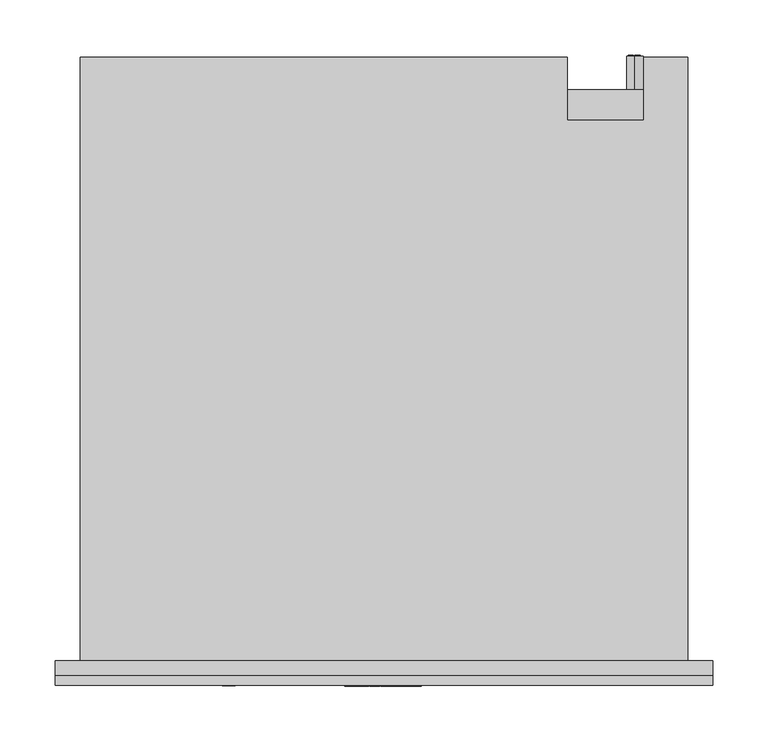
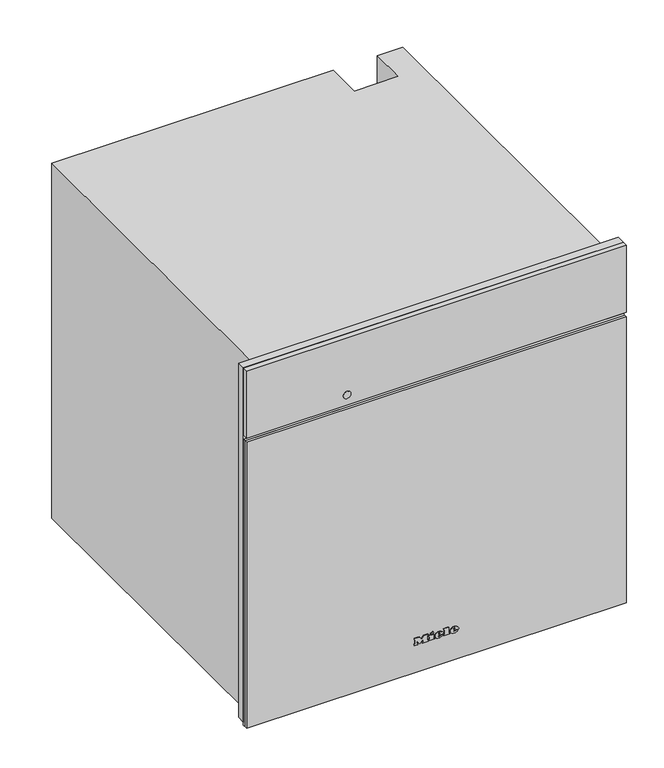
"""IFC4 building model written with IfcOpenShell, lengths in millimetres: proxy geometry, 12327520_UA_DGC7860HCXPro_OBSWM : 23786089_UA_12327520_DGC7860HCXPro_OBSWM."""

from ifc_helpers import new_model, si_unit, point, frame, frame_2d, origin, place, context, project, spatial, polyline, circle_curve, ellipse_curve, trimmed, segment, composite_curve, outline, extrude, faceted_brep, source, transform, mapped, element, save
from ifc_brep_helpers import plane_surface, cylinder_surface, revolved_surface, extruded_surface, advanced_brep


def specialty_equipment_33fbdf8a(model_context):
    return source(origin(), model_context, "Body", "SolidModel", [
        extrude(outline(polyline([(596.0, 297.5), (596.0, -297.5), (9.0, -297.5), (9.0, 297.5), (596.0, 297.5)]), holes=[polyline([(485.0, -272.5), (485.0, 272.5), (27.0, 272.5), (27.0, -272.5), (485.0, -272.5)])]), frame((0.0, -13.0, 0.0), z_axis=(0.0, 1.0, 0.0), x_axis=(0.0, 0.0, 1.0)), (0.0, 0.0, 1.0), 13.0),
        advanced_brep(
        [(227.0, 547.0, 396.5), (227.0, 547.0, 381.5), (221.4098301, 547.0, 384.0), (225.5, 547.0, 384.0), (225.5, 547.0, 394.0), (224.4955303, 547.0, 394.0), (224.4955303, 547.0, 385.0), (221.0315043, 547.0, 385.0), (221.0315043, 547.0, 384.4582978), (232.0, 547.0, 384.0), (232.0, 547.0, 394.0), (227.0, 547.0, 394.0), (227.0, 547.0, 393.0), (231.0, 547.0, 393.0), (231.0, 547.0, 389.5), (228.0, 547.0, 389.5), (228.0, 547.0, 388.5), (231.0, 547.0, 388.5), (231.0, 547.0, 385.0), (227.0, 547.0, 385.0), (227.0, 547.0, 384.0), (227.0, 517.0, 381.5), (227.0, 517.0, 396.5), (232.0, 548.0, 394.0), (232.0, 548.0, 384.0), (227.0, 548.0, 384.0), (227.0, 548.0, 385.0), (231.0, 548.0, 385.0), (231.0, 548.0, 388.5), (228.0, 548.0, 388.5), (228.0, 548.0, 389.5), (231.0, 548.0, 389.5), (231.0, 548.0, 393.0), (227.0, 548.0, 393.0), (227.0, 548.0, 394.0), (225.5, 548.0, 384.0), (221.0315043, 548.0, 384.0), (221.0315043, 548.0, 385.0), (224.4955303, 548.0, 385.0), (224.4955303, 548.0, 394.0), (225.5, 548.0, 394.0), (221.0315043, 547.0, 384.0)],
        [
            (0, 1, circle_curve(frame((227.0, 547.0, 389.0), z_axis=(0.0, 1.0, 0.0), x_axis=(0.0, 0.0, 1.0)), 7.5)),
            (1, 2, circle_curve(frame((227.0, 547.0, 389.0), z_axis=(0.0, 1.0, 0.0), x_axis=(0.0, 0.0, 1.0)), 7.5)),
            (2, 3),
            (3, 4),
            (4, 5),
            (5, 6),
            (6, 7),
            (7, 8),
            (8, 0, circle_curve(frame((227.0, 547.0, 389.0), z_axis=(0.0, 1.0, 0.0), x_axis=(0.0, 0.0, 1.0)), 7.5)),
            (9, 10),
            (10, 11),
            (11, 12),
            (12, 13),
            (13, 14),
            (14, 15),
            (15, 16),
            (16, 17),
            (17, 18),
            (18, 19),
            (19, 20),
            (20, 9),
            (21, 22, circle_curve(frame((227.0, 517.0, 389.0), z_axis=(0.0, -1.0, 0.0), x_axis=(0.0, 0.0, 1.0)), 7.5)),
            (22, 21, circle_curve(frame((227.0, 517.0, 389.0), z_axis=(0.0, -1.0, 0.0), x_axis=(0.0, 0.0, 1.0)), 7.5)),
            (0, 22),
            (21, 1),
            (8, 2, circle_curve(frame((227.0, 547.0, 389.0), z_axis=(0.0, -1.0, 0.0), x_axis=(0.0, 0.0, 1.0)), 7.5)),
            (23, 24),
            (24, 25),
            (25, 26),
            (26, 27),
            (27, 28),
            (28, 29),
            (29, 30),
            (30, 31),
            (31, 32),
            (32, 33),
            (33, 34),
            (34, 23),
            (35, 36),
            (36, 37),
            (37, 38),
            (38, 39),
            (39, 40),
            (40, 35),
            (8, 41),
            (41, 2),
            (23, 10),
            (9, 24),
            (20, 25),
            (19, 26),
            (18, 27),
            (17, 28),
            (16, 29),
            (15, 30),
            (14, 31),
            (13, 32),
            (12, 33),
            (11, 34),
            (35, 3),
            (41, 36),
            (7, 37),
            (6, 38),
            (5, 39),
            (4, 40),
        ],
        [
            plane_surface(frame((227.0, 547.0, 396.5), z_axis=(0.0, 1.0, 0.0), x_axis=(1.0, 0.0, 0.0))),
            plane_surface(frame((227.0, 517.0, 396.5), z_axis=(0.0, -1.0, 0.0), x_axis=(-1.0, 0.0, 0.0))),
            cylinder_surface(frame((227.0, 547.0, 389.0), z_axis=(0.0, -1.0, 0.0), x_axis=(0.0, 0.0, 1.0)), 7.5),
            plane_surface(frame((232.0, 548.0, 394.0), z_axis=(0.0, 1.0, 0.0), x_axis=(0.0, 0.0, -1.0))),
            plane_surface(frame((232.0, 547.0, 394.0), z_axis=(0.0, -1.0, 0.0), x_axis=(0.0, 0.0, 1.0))),
            plane_surface(frame((232.0, 548.0, 394.0), z_axis=(1.0, 0.0, 0.0), x_axis=(0.0, -1.0, 0.0))),
            plane_surface(frame((232.0, 548.0, 384.0), z_axis=(0.0, 0.0, -1.0), x_axis=(0.0, -1.0, 0.0))),
            plane_surface(frame((227.0, 548.0, 384.0), z_axis=(-1.0, 0.0, 0.0), x_axis=(0.0, -1.0, 0.0))),
            plane_surface(frame((227.0, 548.0, 385.0), z_axis=(0.0, 0.0, 1.0), x_axis=(0.0, -1.0, 0.0))),
            plane_surface(frame((231.0, 548.0, 385.0), z_axis=(-1.0, 0.0, 0.0), x_axis=(0.0, -1.0, 0.0))),
            plane_surface(frame((231.0, 548.0, 388.5), z_axis=(0.0, 0.0, -1.0), x_axis=(0.0, -1.0, 0.0))),
            plane_surface(frame((228.0, 548.0, 388.5), z_axis=(-1.0, 0.0, 0.0), x_axis=(0.0, -1.0, 0.0))),
            plane_surface(frame((228.0, 548.0, 389.5), z_axis=(0.0, 0.0, 1.0), x_axis=(0.0, -1.0, 0.0))),
            plane_surface(frame((231.0, 548.0, 389.5), z_axis=(-1.0, 0.0, 0.0), x_axis=(0.0, -1.0, 0.0))),
            plane_surface(frame((231.0, 548.0, 393.0), z_axis=(0.0, 0.0, -1.0), x_axis=(0.0, -1.0, 0.0))),
            plane_surface(frame((227.0, 548.0, 393.0), z_axis=(-1.0, 0.0, 0.0), x_axis=(0.0, -1.0, 0.0))),
            plane_surface(frame((227.0, 548.0, 394.0), z_axis=(0.0, 0.0, 1.0), x_axis=(0.0, -1.0, 0.0))),
            plane_surface(frame((225.5, 548.0, 384.0), z_axis=(0.0, 0.0, -1.0), x_axis=(0.0, -1.0, 0.0))),
            plane_surface(frame((221.0315043, 548.0, 384.0), z_axis=(-1.0, 0.0, 0.0), x_axis=(0.0, -1.0, 0.0))),
            plane_surface(frame((221.0315043, 548.0, 385.0), z_axis=(0.0, 0.0, 1.0), x_axis=(0.0, -1.0, 0.0))),
            plane_surface(frame((224.4955303, 548.0, 385.0), z_axis=(-1.0, 0.0, 0.0), x_axis=(0.0, -1.0, 0.0))),
            plane_surface(frame((224.4955303, 548.0, 394.0), z_axis=(0.0, 0.0, 1.0), x_axis=(0.0, -1.0, 0.0))),
            plane_surface(frame((225.5, 548.0, 394.0), z_axis=(1.0, 0.0, 0.0), x_axis=(0.0, -1.0, 0.0))),
        ],
        [
            (0, [[1, 2, 3, 4, 5, 6, 7, 8, 9], [10, 11, 12, 13, 14, 15, 16, 17, 18, 19, 20, 21]]),
            (1, [[22, 23]]),
            (2, [[-1, 24, -22, 25]]),
            (2, [[-23, -24, -9, 26, -2, -25]]),
            (3, [[27, 28, 29, 30, 31, 32, 33, 34, 35, 36, 37, 38]]),
            (3, [[39, 40, 41, 42, 43, 44]]),
            (4, [[45, 46, -26]]),
            (5, [[-27, 47, -10, 48]]),
            (6, [[-28, -48, -21, 49]]),
            (7, [[-29, -49, -20, 50]]),
            (8, [[-30, -50, -19, 51]]),
            (9, [[-31, -51, -18, 52]]),
            (10, [[-32, -52, -17, 53]]),
            (11, [[-33, -53, -16, 54]]),
            (12, [[-34, -54, -15, 55]]),
            (13, [[-35, -55, -14, 56]]),
            (14, [[-36, -56, -13, 57]]),
            (15, [[-37, -57, -12, 58]]),
            (16, [[-38, -58, -11, -47]]),
            (17, [[-39, 59, -3, -46, 60]]),
            (18, [[-40, -60, -45, -8, 61]]),
            (19, [[-41, -61, -7, 62]]),
            (20, [[-42, -62, -6, 63]]),
            (21, [[-43, -63, -5, 64]]),
            (22, [[-44, -64, -4, -59]]),
        ],
    ),
        faceted_brep([(-275.0, 546.0, 0.0), (-275.0, 546.0, 588.0), (166.0, 546.0, 588.0), (166.0, 546.0, 0.0), (235.0, 546.0, 588.0), (275.0, 546.0, 588.0), (275.0, 546.0, 478.0), (235.0, 546.0, 478.0), (275.0, 0.0, 588.0), (-275.0, 0.0, 588.0), (-275.0, 0.0, 0.0), (275.0, 0.0, 0.0), (-272.5, 0.0, 485.0), (272.5, 0.0, 485.0), (272.5, 0.0, 27.0), (-272.5, 0.0, 27.0), (235.0, 489.0, 588.0), (166.0, 489.0, 588.0), (166.0, 517.0, 0.0), (275.0, 517.0, 0.0), (275.0, 517.0, 478.0), (272.5, 17.0, 485.0), (-272.5, 17.0, 485.0), (-272.5, 17.0, 27.0), (272.5, 17.0, 27.0), (231.0, 17.0, 409.0), (231.0, 17.0, 61.0), (-231.0, 17.0, 61.0), (-231.0, 17.0, 409.0), (231.0, 411.0, 409.0), (-231.0, 411.0, 409.0), (-231.0, 411.0, 61.0), (231.0, 411.0, 61.0), (235.0, 489.0, 477.0), (166.0, 489.0, 477.0), (166.0, 517.0, 477.0), (235.0, 517.0, 477.0), (235.0, 517.0, 478.0)], [[[0, 1, 2, 3]], [[4, 5, 6, 7]], [[8, 9, 10, 11], [12, 13, 14, 15]], [[9, 8, 5, 4, 16, 17, 2, 1]], [[1, 0, 10, 9]], [[11, 10, 0, 3, 18, 19]], [[8, 11, 19, 20, 6, 5]], [[21, 22, 23, 24], [25, 26, 27, 28]], [[22, 21, 13, 12]], [[23, 22, 12, 15]], [[24, 23, 15, 14]], [[21, 24, 14, 13]], [[29, 30, 31, 32]], [[29, 32, 26, 25]], [[32, 31, 27, 26]], [[31, 30, 28, 27]], [[30, 29, 25, 28]], [[16, 33, 34, 17]], [[17, 34, 35, 18, 3, 2]], [[34, 33, 36, 35]], [[33, 16, 4, 7, 37, 36]], [[37, 20, 19, 18, 35, 36]], [[20, 37, 7, 6]]]),
        advanced_brep(
        [(26.2998, -23.0, 52.7018), (26.2998, -23.0, 53.8532), (33.9264, -23.0, 53.8532), (20.6568, -23.0, 53.8532), (23.7918, -23.0, 50.0), (33.7326, -23.0, 52.7018), (30.2898, -23.0, 52.7018), (27.5766, -23.0, 51.425), (26.2998, -23.0, 55.3124), (26.2998, -23.0, 56.555), (28.2492, -23.0, 56.555), (28.2492, -23.0, 55.3124), (26.2998, -22.0, 52.7018), (27.5766, -22.0, 51.425), (30.2898, -22.0, 52.7018), (33.7326, -22.0, 52.7018), (23.7918, -22.0, 50.0), (20.6568, -22.0, 53.8532), (33.9264, -22.0, 53.8532), (26.2998, -22.0, 53.8532), (26.2998, -22.0, 55.3124), (28.2492, -22.0, 55.3124), (28.2492, -22.0, 56.555), (26.2998, -22.0, 56.555)],
        [
            (0, 1),
            (1, 2),
            (2, 3, ellipse_curve(frame((27.2916, -23.0, 53.8532), z_axis=(0.0, -1.0, 0.0), x_axis=(-1.0, 0.0, 0.0)), 6.6348, 5.4834)),
            (3, 4, circle_curve(frame((25.0686622, -23.0, 54.2408), z_axis=(0.0, -1.0, 0.0), x_axis=(0.0, 0.0, -1.0)), 4.4288556)),
            (4, 5, circle_curve(frame((27.1587808, -23.0, 57.2504), z_axis=(0.0, -1.0, 0.0), x_axis=(0.0, 0.0, -1.0)), 7.9940516)),
            (5, 6),
            (6, 7, circle_curve(frame((28.1338588, -23.0, 53.762), z_axis=(0.0, 1.0, 0.0), x_axis=(0.0, 0.0, -1.0)), 2.4025208)),
            (7, 0, circle_curve(frame((27.5766, -23.0, 52.7018), z_axis=(0.0, 1.0, 0.0), x_axis=(0.0, 0.0, -1.0)), 1.2768)),
            (8, 9),
            (9, 10, circle_curve(frame((27.2745, -23.0, 56.555), z_axis=(0.0, 1.0, 0.0), x_axis=(0.0, 0.0, -1.0)), 0.9747)),
            (10, 11),
            (11, 8),
            (12, 13, circle_curve(frame((27.5766, -22.0, 52.7018), z_axis=(0.0, -1.0, 0.0), x_axis=(0.0, 0.0, -1.0)), 1.2768)),
            (13, 14, circle_curve(frame((28.1338588, -22.0, 53.762), z_axis=(0.0, -1.0, 0.0), x_axis=(0.0, 0.0, -1.0)), 2.4025208)),
            (14, 15),
            (15, 16, circle_curve(frame((27.1587808, -22.0, 57.2504), z_axis=(0.0, 1.0, 0.0), x_axis=(0.0, 0.0, -1.0)), 7.9940516)),
            (16, 17, circle_curve(frame((25.0686622, -22.0, 54.2408), z_axis=(0.0, 1.0, 0.0), x_axis=(0.0, 0.0, -1.0)), 4.4288556)),
            (17, 18, ellipse_curve(frame((27.2916, -22.0, 53.8532), z_axis=(0.0, 1.0, 0.0), x_axis=(-1.0, 0.0, 0.0)), 6.6348, 5.4834)),
            (18, 19),
            (19, 12),
            (20, 21),
            (21, 22),
            (22, 23, circle_curve(frame((27.2745, -22.0, 56.555), z_axis=(0.0, -1.0, 0.0), x_axis=(0.0, 0.0, -1.0)), 0.9747)),
            (23, 20),
            (0, 12),
            (19, 1),
            (18, 2),
            (5, 15),
            (14, 6),
            (17, 3),
            (13, 7),
            (16, 4),
            (8, 20),
            (23, 9),
            (22, 10),
            (21, 11),
        ],
        [
            plane_surface(frame((26.2998, -23.0, 53.8532), z_axis=(0.0, -1.0, 0.0), x_axis=(0.0, 0.0, 1.0))),
            plane_surface(frame((26.2998, -22.0, 53.8532), z_axis=(0.0, 1.0, 0.0), x_axis=(0.0, 0.0, -1.0))),
            plane_surface(frame((26.2998, -23.0, 52.7018), z_axis=(1.0, 0.0, 0.0), x_axis=(0.0, 1.0, 0.0))),
            plane_surface(frame((26.2998, -23.0, 53.8532), z_axis=(0.0, 0.0, -1.0), x_axis=(0.0, 1.0, 0.0))),
            plane_surface(frame((33.7326, -23.0, 52.7018), z_axis=(0.0, 0.0, 1.0), x_axis=(0.0, 1.0, 0.0))),
            extruded_surface(trimmed(ellipse_curve(frame((27.2916, -21.0, 53.8532), z_axis=(0.0, -1.0, 0.0), x_axis=(-1.0, 0.0, 0.0)), 6.6348, 5.4834), [point((33.9264, -21.0, 53.8532))], [point((20.6568, -21.0, 53.8532))], True, "CARTESIAN"), (0.0, -1.0, 0.0), 1.0),
            revolved_surface(polyline([(28.1338588, -22.0, 51.3594792), (28.1338588, -23.0, 51.3594792)]), (28.1338588, -22.0, 53.762), (0.0, 1.0, 0.0)),
            revolved_surface(polyline([(27.5766, -22.0, 51.425), (27.5766, -23.0, 51.425)]), (27.5766, -22.0, 52.7018), (0.0, 1.0, 0.0)),
            cylinder_surface(frame((25.0686622, -22.0, 54.2408), z_axis=(0.0, -1.0, 0.0), x_axis=(0.0, 0.0, -1.0)), 4.4288556),
            cylinder_surface(frame((27.1587808, -22.0, 57.2504), z_axis=(0.0, -1.0, 0.0), x_axis=(0.0, 0.0, -1.0)), 7.9940516),
            plane_surface(frame((26.2998, -23.0, 55.3124), z_axis=(1.0, 0.0, 0.0), x_axis=(0.0, 1.0, 0.0))),
            revolved_surface(polyline([(27.2745, -22.0, 55.5803), (27.2745, -23.0, 55.5803)]), (27.2745, -22.0, 56.555), (0.0, 1.0, 0.0)),
            plane_surface(frame((28.2492, -23.0, 56.555), z_axis=(-1.0, 0.0, 0.0), x_axis=(0.0, 1.0, 0.0))),
            plane_surface(frame((28.2492, -23.0, 55.3124), z_axis=(0.0, 0.0, 1.0), x_axis=(0.0, 1.0, 0.0))),
        ],
        [
            (0, [[1, 2, 3, 4, 5, 6, 7, 8], [9, 10, 11, 12]]),
            (1, [[13, 14, 15, 16, 17, 18, 19, 20], [21, 22, 23, 24]]),
            (2, [[-1, 25, -20, 26]]),
            (3, [[-2, -26, -19, 27]]),
            (4, [[-6, 28, -15, 29]]),
            (5, [[-3, -27, -18, 30]]),
            (6, [[-7, -29, -14, 31]]),
            (7, [[-8, -31, -13, -25]]),
            (8, [[-4, -30, -17, 32]]),
            (9, [[-5, -32, -16, -28]]),
            (10, [[-9, 33, -24, 34]]),
            (11, [[-10, -34, -23, 35]]),
            (12, [[-11, -35, -22, 36]]),
            (13, [[-12, -36, -21, -33]]),
        ],
    ),
        advanced_brep(
        [(2.508, -23.0, 52.7018), (2.508, -23.0, 53.8532), (10.1346, -23.0, 53.8532), (-3.135, -23.0, 53.8532), (0.0, -23.0, 50.0), (9.9408, -23.0, 52.7018), (6.498, -23.0, 52.7018), (3.7848, -23.0, 51.425), (2.508, -23.0, 55.3124), (2.508, -23.0, 56.555), (4.4574, -23.0, 56.555), (4.4574, -23.0, 55.3124), (2.508, -22.0, 52.7018), (3.7848, -22.0, 51.425), (6.498, -22.0, 52.7018), (9.9408, -22.0, 52.7018), (0.0, -22.0, 50.0), (-3.135, -22.0, 53.8532), (10.1346, -22.0, 53.8532), (2.508, -22.0, 53.8532), (2.508, -22.0, 55.3124), (4.4574, -22.0, 55.3124), (4.4574, -22.0, 56.555), (2.508, -22.0, 56.555)],
        [
            (0, 1),
            (1, 2),
            (2, 3, ellipse_curve(frame((3.4998, -23.0, 53.8532), z_axis=(0.0, -1.0, 0.0), x_axis=(-1.0, 0.0, 0.0)), 6.6348, 5.4834)),
            (3, 4, circle_curve(frame((1.2768622, -23.0, 54.2408), z_axis=(0.0, -1.0, 0.0), x_axis=(0.0, 0.0, -1.0)), 4.4288556)),
            (4, 5, circle_curve(frame((3.3669808, -23.0, 57.2504), z_axis=(0.0, -1.0, 0.0), x_axis=(0.0, 0.0, -1.0)), 7.9940516)),
            (5, 6),
            (6, 7, circle_curve(frame((4.3420588, -23.0, 53.762), z_axis=(0.0, 1.0, 0.0), x_axis=(0.0, 0.0, -1.0)), 2.4025208)),
            (7, 0, circle_curve(frame((3.7848, -23.0, 52.7018), z_axis=(0.0, 1.0, 0.0), x_axis=(0.0, 0.0, -1.0)), 1.2768)),
            (8, 9),
            (9, 10, circle_curve(frame((3.4827, -23.0, 56.555), z_axis=(0.0, 1.0, 0.0), x_axis=(0.0, 0.0, -1.0)), 0.9747)),
            (10, 11),
            (11, 8),
            (12, 13, circle_curve(frame((3.7848, -22.0, 52.7018), z_axis=(0.0, -1.0, 0.0), x_axis=(0.0, 0.0, -1.0)), 1.2768)),
            (13, 14, circle_curve(frame((4.3420588, -22.0, 53.762), z_axis=(0.0, -1.0, 0.0), x_axis=(0.0, 0.0, -1.0)), 2.4025208)),
            (14, 15),
            (15, 16, circle_curve(frame((3.3669808, -22.0, 57.2504), z_axis=(0.0, 1.0, 0.0), x_axis=(0.0, 0.0, -1.0)), 7.9940516)),
            (16, 17, circle_curve(frame((1.2768622, -22.0, 54.2408), z_axis=(0.0, 1.0, 0.0), x_axis=(0.0, 0.0, -1.0)), 4.4288556)),
            (17, 18, ellipse_curve(frame((3.4998, -22.0, 53.8532), z_axis=(0.0, 1.0, 0.0), x_axis=(-1.0, 0.0, 0.0)), 6.6348, 5.4834)),
            (18, 19),
            (19, 12),
            (20, 21),
            (21, 22),
            (22, 23, circle_curve(frame((3.4827, -22.0, 56.555), z_axis=(0.0, -1.0, 0.0), x_axis=(0.0, 0.0, -1.0)), 0.9747)),
            (23, 20),
            (0, 12),
            (19, 1),
            (18, 2),
            (5, 15),
            (14, 6),
            (17, 3),
            (13, 7),
            (16, 4),
            (8, 20),
            (23, 9),
            (22, 10),
            (21, 11),
        ],
        [
            plane_surface(frame((2.508, -23.0, 53.8532), z_axis=(0.0, -1.0, 0.0), x_axis=(0.0, 0.0, 1.0))),
            plane_surface(frame((2.508, -22.0, 53.8532), z_axis=(0.0, 1.0, 0.0), x_axis=(0.0, 0.0, -1.0))),
            plane_surface(frame((2.508, -23.0, 52.7018), z_axis=(1.0, 0.0, 0.0), x_axis=(0.0, 1.0, 0.0))),
            plane_surface(frame((2.508, -23.0, 53.8532), z_axis=(0.0, 0.0, -1.0), x_axis=(0.0, 1.0, 0.0))),
            plane_surface(frame((9.9408, -23.0, 52.7018), z_axis=(0.0, 0.0, 1.0), x_axis=(0.0, 1.0, 0.0))),
            extruded_surface(trimmed(ellipse_curve(frame((3.4998, -21.0, 53.8532), z_axis=(0.0, -1.0, 0.0), x_axis=(-1.0, 0.0, 0.0)), 6.6348, 5.4834), [point((10.1346, -21.0, 53.8532))], [point((-3.135, -21.0, 53.8532))], True, "CARTESIAN"), (0.0, -1.0, 0.0), 1.0),
            revolved_surface(polyline([(4.3420588, -22.0, 51.3594792), (4.3420588, -23.0, 51.3594792)]), (4.3420588, -22.0, 53.762), (0.0, 1.0, 0.0)),
            revolved_surface(polyline([(3.7848, -22.0, 51.425), (3.7848, -23.0, 51.425)]), (3.7848, -22.0, 52.7018), (0.0, 1.0, 0.0)),
            cylinder_surface(frame((1.2768622, -22.0, 54.2408), z_axis=(0.0, -1.0, 0.0), x_axis=(0.0, 0.0, -1.0)), 4.4288556),
            cylinder_surface(frame((3.3669808, -22.0, 57.2504), z_axis=(0.0, -1.0, 0.0), x_axis=(0.0, 0.0, -1.0)), 7.9940516),
            plane_surface(frame((2.508, -23.0, 55.3124), z_axis=(1.0, 0.0, 0.0), x_axis=(0.0, 1.0, 0.0))),
            revolved_surface(polyline([(3.4827, -22.0, 55.5803), (3.4827, -23.0, 55.5803)]), (3.4827, -22.0, 56.555), (0.0, 1.0, 0.0)),
            plane_surface(frame((4.4574, -23.0, 56.555), z_axis=(-1.0, 0.0, 0.0), x_axis=(0.0, 1.0, 0.0))),
            plane_surface(frame((4.4574, -23.0, 55.3124), z_axis=(0.0, 0.0, 1.0), x_axis=(0.0, 1.0, 0.0))),
        ],
        [
            (0, [[1, 2, 3, 4, 5, 6, 7, 8], [9, 10, 11, 12]]),
            (1, [[13, 14, 15, 16, 17, 18, 19, 20], [21, 22, 23, 24]]),
            (2, [[-1, 25, -20, 26]]),
            (3, [[-2, -26, -19, 27]]),
            (4, [[-6, 28, -15, 29]]),
            (5, [[-3, -27, -18, 30]]),
            (6, [[-7, -29, -14, 31]]),
            (7, [[-8, -31, -13, -25]]),
            (8, [[-4, -30, -17, 32]]),
            (9, [[-5, -32, -16, -28]]),
            (10, [[-9, 33, -24, 34]]),
            (11, [[-10, -34, -23, 35]]),
            (12, [[-11, -35, -22, 36]]),
            (13, [[-12, -36, -21, -33]]),
        ],
    ),
        extrude(outline(polyline([(60.7274, -9.9522), (58.8806, -9.0858), (60.6818, -5.2212), (62.5286, -6.0762), (60.7274, -9.9522)])), frame((0.0, -23.0, 0.0), z_axis=(0.0, 1.0, 0.0), x_axis=(0.0, 0.0, 1.0)), (0.0, 0.0, 1.0), 1.0),
        extrude(outline(polyline([(58.6298, -12.768), (56.5892, -12.768), (56.5892, -11.4114), (51.9152, -11.4114), (51.9152, -12.768), (50.0, -12.768), (50.0, -3.7734), (51.9152, -3.7734), (51.9152, -5.0958), (58.6298, -5.0958), (58.6298, -12.768)])), frame((0.0, -23.0, 0.0), z_axis=(0.0, 1.0, 0.0), x_axis=(0.0, 0.0, 1.0)), (0.0, 0.0, 1.0), 1.0),
        extrude(outline(polyline([(59.5418, 10.773), (59.5418, 12.141), (51.9152, 12.141), (51.9152, 10.773), (50.0, 10.773), (50.0, 20.0184), (51.9152, 20.0184), (51.9152, 18.6162), (61.4, 18.6162), (61.4, 10.773), (59.5418, 10.773)])), frame((0.0, -23.0, 0.0), z_axis=(0.0, 1.0, 0.0), x_axis=(0.0, 0.0, 1.0)), (0.0, 0.0, 1.0), 1.0),
        extrude(outline(polyline([(59.5418, -35.4882), (59.5418, -34.1088), (51.9152, -34.1088), (51.9152, -35.4882), (50.0, -35.4882), (50.0, -30.4722), (51.9152, -30.4722), (51.9152, -31.8402), (56.7429247, -31.8402), (50.0, -26.7444), (56.9402223, -21.6258), (51.9152, -21.6258), (51.9152, -23.028), (50.0, -23.028), (50.0, -13.9308), (51.9152, -13.9308), (51.9152, -15.3786), (59.5418, -15.3786), (59.5418, -13.9308), (61.4, -13.9308), (61.4, -20.8734), (57.125, -24.2022), (61.4, -27.5424), (61.4, -35.4882), (59.5418, -35.4882)])), frame((0.0, -23.0, 0.0), z_axis=(0.0, 1.0, 0.0), x_axis=(0.0, 0.0, 1.0)), (0.0, 0.0, 1.0), 1.0),
        extrude(outline(polyline([(297.5, -22.0), (-297.5, -22.0), (-297.5, -13.0), (297.5, -13.0), (297.5, -22.0)])), frame((0.0, 0.0, 485.0), z_axis=(0.0, 0.0, 1.0), x_axis=(1.0, 0.0, 0.0)), (0.0, 0.0, 1.0), 111.0),
        extrude(outline(composite_curve([segment(trimmed(circle_curve(frame_2d((502.0, -140.5745637)), 6.0), [point((502.0, -146.5745637))], [point((502.0, -134.5745637))], False, "CARTESIAN"), True, "CONTINUOUS"), segment(trimmed(circle_curve(frame_2d((502.0, -140.5745637)), 6.0), [point((502.0, -134.5745637))], [point((502.0, -146.5745637))], False, "CARTESIAN"), True, "CONTINUOUS")], self_intersect=False)), frame((0.0, -22.5, 0.0), z_axis=(0.0, 1.0, 0.0), x_axis=(0.0, 0.0, 1.0)), (0.0, 0.0, 1.0), 1.0),
        extrude(outline(polyline([(-297.5, -18.0), (297.5, -18.0), (297.5, -22.0), (-297.5, -22.0), (-297.5, -18.0)])), frame((0.0, 0.0, 4.0), z_axis=(0.0, 0.0, 1.0), x_axis=(1.0, 0.0, 0.0)), (0.0, 0.0, 1.0), 474.0),
        extrude(outline(polyline([(297.5, -18.0), (-297.5, -18.0), (-297.5, -13.0), (297.5, -13.0), (297.5, -18.0)])), frame((0.0, 0.0, 4.0), z_axis=(0.0, 0.0, 1.0), x_axis=(1.0, 0.0, 0.0)), (0.0, 0.0, 1.0), 474.0),
    ])


if __name__ == "__main__":
    model = new_model("IFC4")
    model_context = context("Model", 3, world=origin())
    ifc_project = project(units=[si_unit("LENGTHUNIT", "METRE", prefix="MILLI")], contexts=[model_context])
    site = spatial("IfcSite", under=ifc_project)
    building = spatial("IfcBuilding", under=site)
    placement = place(None, origin())
    specialty_equipment_shape = specialty_equipment_33fbdf8a(model_context)
    element("IfcBuildingElementProxy", 1, Name="12327520_UA_DGC7860HCXPro_OBSWM : 23786089_UA_12327520_DGC7860HCXPro_OBSWM", ObjectType="12327520_UA_DGC7860HCXPro_OBSWM : 23786089_UA_12327520_DGC7860HCXPro_OBSWM", at=placement, inside=building, context=model_context, shape_type="MappedRepresentation", body=[
        mapped(specialty_equipment_shape, transform((0.0, 0.0, 0.0), x_axis=(1.0, 0.0, 0.0), y_axis=(0.0, 1.0, 0.0), z_axis=(0.0, 0.0, 1.0))),
    ])
    save(model, "model.ifc")
